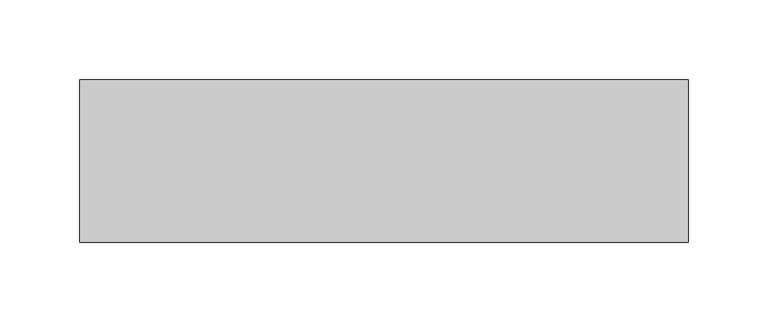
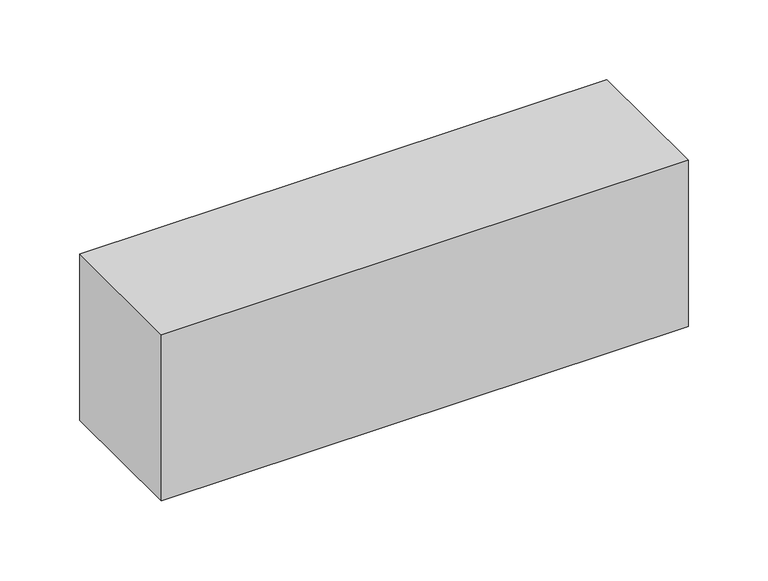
"""IFC4 building model written with IfcOpenShell, lengths in millimetres: proxy geometry, DATUM^OFFICE 1_DESK-TOP RISER."""

from ifc_helpers import new_model, si_unit, frame, origin, place, context, project, spatial, polyline, outline, extrude, source, transform, mapped, element, save


def generic_models_4a1e9b02(model_context):
    return source(origin(), model_context, "Body", "SweptSolid", [
        extrude(outline(polyline([(0.0, 0.0), (0.0, 101.6), (381.0, 101.6), (381.0, 0.0), (0.0, 0.0)])), frame((0.0, 0.0, -127.0), z_axis=(0.0, 0.0, 1.0), x_axis=(1.0, 0.0, 0.0)), (0.0, 0.0, 1.0), 127.0),
    ])


if __name__ == "__main__":
    model = new_model("IFC4")
    model_context = context("Model", 3, world=origin())
    ifc_project = project(units=[si_unit("LENGTHUNIT", "METRE", prefix="MILLI")], contexts=[model_context])
    site = spatial("IfcSite", under=ifc_project)
    building = spatial("IfcBuilding", under=site)
    placement = place(None, origin())
    generic_models_shape = generic_models_4a1e9b02(model_context)
    element("IfcBuildingElementProxy", 1, Name="DATUM^OFFICE 1_DESK-TOP RISER", ObjectType="DATUM^OFFICE 1_DESK-TOP RISER", at=placement, inside=building, context=model_context, shape_type="MappedRepresentation", body=[
        mapped(generic_models_shape, transform((0.0, 0.0, 0.0), x_axis=(1.0, 0.0, 0.0), y_axis=(0.0, 1.0, 0.0), z_axis=(0.0, 0.0, 1.0))),
    ])
    save(model, "model.ifc")
